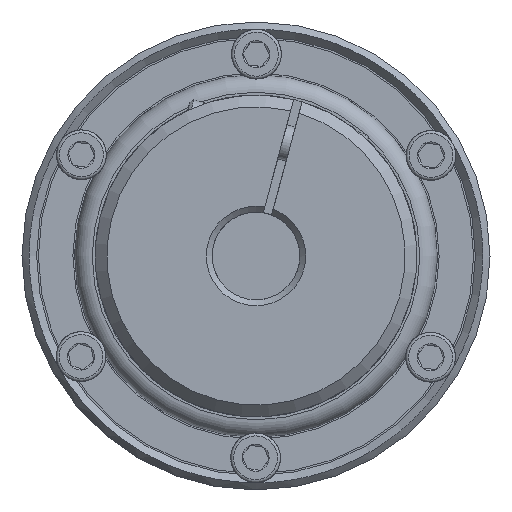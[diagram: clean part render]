
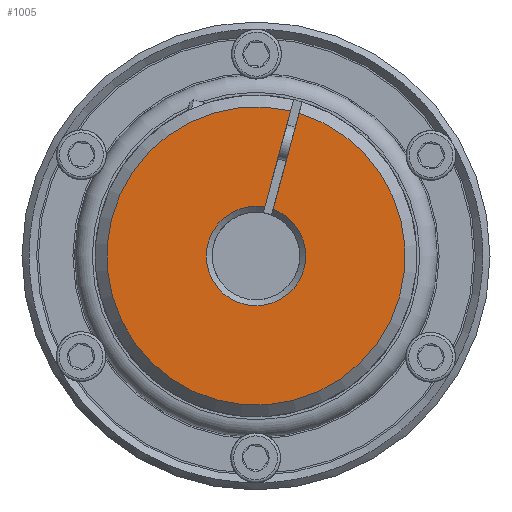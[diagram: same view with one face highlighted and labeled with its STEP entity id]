
A CAD part, left-side view. The second image highlights one B-rep face of the part: STEP entity #1005.
In plain terms, the highlighted planar face has unit normal (-1, 0, 0) as drawn and (0, 0, -1) by its records, which use the part's own axes.
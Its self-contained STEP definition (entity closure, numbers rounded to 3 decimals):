
#1005 = ADVANCED_FACE( '', ( #2143 ), #2144, .T. );
#2143 = FACE_OUTER_BOUND( '', #3686, .T. );
#2144 = PLANE( '', #3687 );
#3686 = EDGE_LOOP( '', ( #5242, #5243, #5244, #5245 ) );
#3687 = AXIS2_PLACEMENT_3D( '', #5246, #5247, #5248 );
#5242 = ORIENTED_EDGE( '', *, *, #8252, .F. );
#5243 = ORIENTED_EDGE( '', *, *, #8253, .T. );
#5244 = ORIENTED_EDGE( '', *, *, #8254, .T. );
#5245 = ORIENTED_EDGE( '', *, *, #8255, .T. );
#5246 = CARTESIAN_POINT( '', ( 0., 0., 0. ) );
#5247 = DIRECTION( '', ( 0., 0., -1. ) );
#5248 = DIRECTION( '', ( -1., 0., 0. ) );
#8252 = EDGE_CURVE( '', #9549, #9550, #9551, .T. );
#8253 = EDGE_CURVE( '', #9549, #9552, #9553, .T. );
#8254 = EDGE_CURVE( '', #9552, #9554, #9555, .T. );
#8255 = EDGE_CURVE( '', #9554, #9550, #9556, .F. );
#9549 = VERTEX_POINT( '', #11369 );
#9550 = VERTEX_POINT( '', #11370 );
#9551 = LINE( '', #11371, #11372 );
#9552 = VERTEX_POINT( '', #11373 );
#9553 = CIRCLE( '', #11374, 25.5 );
#9554 = VERTEX_POINT( '', #11375 );
#9555 = LINE( '', #11376, #11377 );
#9556 = CIRCLE( '', #11378, 8.5 );
#11369 = CARTESIAN_POINT( '', ( -25.489, 0.75, 0. ) );
#11370 = CARTESIAN_POINT( '', ( -8.467, 0.75, 0. ) );
#11371 = CARTESIAN_POINT( '', ( -27.5, 0.75, 0. ) );
#11372 = VECTOR( '', #14023, 1000. );
#11373 = CARTESIAN_POINT( '', ( -25.489, -0.75, 0. ) );
#11374 = AXIS2_PLACEMENT_3D( '', #14024, #14025, #14026 );
#11375 = CARTESIAN_POINT( '', ( -8.467, -0.75, 0. ) );
#11376 = CARTESIAN_POINT( '', ( -27.5, -0.75, 0. ) );
#11377 = VECTOR( '', #14027, 1000. );
#11378 = AXIS2_PLACEMENT_3D( '', #14028, #14029, #14030 );
#14023 = DIRECTION( '', ( 1., 0., 0. ) );
#14024 = CARTESIAN_POINT( '', ( 0., 0., 0. ) );
#14025 = DIRECTION( '', ( 0., 0., -1. ) );
#14026 = DIRECTION( '', ( -1., 0., 0. ) );
#14027 = DIRECTION( '', ( 1., 0., 0. ) );
#14028 = CARTESIAN_POINT( '', ( 0., 0., 0. ) );
#14029 = DIRECTION( '', ( 0., 0., -1. ) );
#14030 = DIRECTION( '', ( -1., 0., 0. ) );
